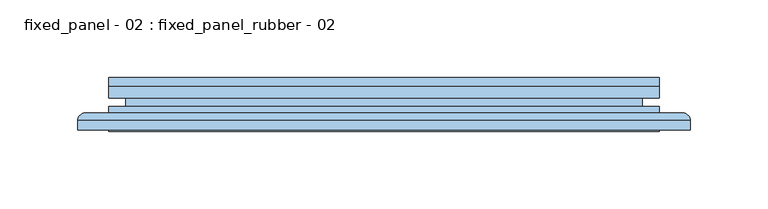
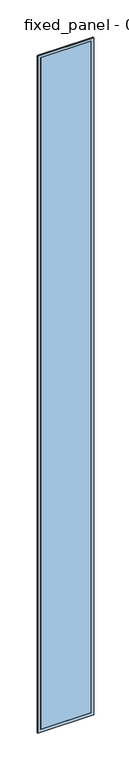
"""IFC4 building model written with IfcOpenShell, lengths in millimetres: window geometry, fixed_panel - 02 : fixed_panel_rubber - 02."""

from ifc_helpers import new_model, si_unit, frame, origin, origin_with_axes, place, context, project, spatial, polyline, ellipse_curve, outline, extrude, faceted_brep, source, transform, mapped, element, save
from ifc_brep_helpers import plane_surface, cylinder_surface, advanced_brep


def fixed_panel_02_fixed_panel_rubber_02_223eeaf6(model_context):
    return source(origin(), model_context, "Body", "SolidModel", [
        advanced_brep(
        [(177.5009348, -27.9878211, 5000.0), (182.5009348, -22.9878211, 5005.0), (182.5009348, -22.9878211, -5.0), (177.5009348, -27.9878211, 0.0), (192.4986127, -22.9878211, -14.9976779), (-192.4986127, -22.9878211, -14.9976779), (-192.4986127, -22.9878211, 5014.9976779), (192.4986127, -22.9878211, 5014.9976779), (-182.5009348, -22.9878211, 5005.0), (-182.5009348, -22.9878211, -5.0), (-177.5009348, -27.9878211, 0.0), (177.5009348, -34.0, 5000.0), (177.5009348, -34.0, 0.0), (-177.5009348, -34.0, 0.0), (197.4942883, -34.0, 5019.9933535), (-197.4942883, -34.0, 5019.9933535), (-197.4942883, -34.0, -19.9933535), (197.4942883, -34.0, -19.9933535), (-177.5009348, -34.0, 5000.0), (197.4942883, -27.9834967, 5019.9933535), (197.4942883, -27.9834967, -19.9933535), (-197.4942883, -27.9834967, -19.9933535), (-177.5009348, -27.9878211, 5000.0), (-197.4942883, -27.9834967, 5019.9933535)],
        [
            (0, 1, ellipse_curve(frame((182.5009348, -27.9878211, 5005.0), z_axis=(0.7071067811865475, 0.0, -0.7071067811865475), x_axis=(0.7071067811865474, 0.0, 0.7071067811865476)), 7.0710678, 5.0)),
            (1, 2),
            (2, 3, ellipse_curve(frame((182.5009348, -27.9878211, -5.0), z_axis=(0.7071067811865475, 0.0, 0.7071067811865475), x_axis=(-0.7071067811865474, 0.0, 0.7071067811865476)), 7.0710678, 5.0)),
            (3, 0),
            (4, 5),
            (5, 6),
            (6, 7),
            (7, 4),
            (1, 8),
            (8, 9),
            (9, 2),
            (9, 10, ellipse_curve(frame((-182.5009348, -27.9878211, -5.0), z_axis=(0.7071067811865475, 0.0, -0.7071067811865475), x_axis=(0.7071067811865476, 0.0, 0.7071067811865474)), 7.0710678, 5.0)),
            (10, 3),
            (11, 0),
            (3, 12),
            (12, 11),
            (10, 13),
            (13, 12),
            (14, 15),
            (15, 16),
            (16, 17),
            (17, 14),
            (13, 18),
            (18, 11),
            (19, 14),
            (17, 20),
            (20, 19),
            (16, 21),
            (21, 20),
            (7, 19, ellipse_curve(frame((192.4986127, -27.9834967, 5014.9976779), z_axis=(0.7071067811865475, 0.0, -0.7071067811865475), x_axis=(0.7071067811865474, 0.0, 0.7071067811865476)), 7.0649521, 4.9956756)),
            (20, 4, ellipse_curve(frame((192.4986127, -27.9834967, -14.9976779), z_axis=(0.7071067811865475, 0.0, 0.7071067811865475), x_axis=(-0.7071067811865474, 0.0, 0.7071067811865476)), 7.0649521, 4.9956756)),
            (21, 5, ellipse_curve(frame((-192.4986127, -27.9834967, -14.9976779), z_axis=(0.7071067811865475, 0.0, -0.7071067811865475), x_axis=(0.7071067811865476, 0.0, 0.7071067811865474)), 7.0649521, 4.9956756)),
            (8, 22, ellipse_curve(frame((-182.5009348, -27.9878211, 5005.0), z_axis=(-0.7071067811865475, 0.0, -0.7071067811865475), x_axis=(0.7071067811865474, 0.0, -0.7071067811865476)), 7.0710678, 5.0)),
            (22, 10),
            (22, 18),
            (15, 23),
            (23, 21),
            (23, 6, ellipse_curve(frame((-192.4986127, -27.9834967, 5014.9976779), z_axis=(-0.7071067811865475, 0.0, -0.7071067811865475), x_axis=(0.7071067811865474, 0.0, -0.7071067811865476)), 7.0649521, 4.9956756)),
            (0, 22),
            (19, 23),
        ],
        [
            cylinder_surface(frame((182.5009348, -27.9878211, 5000.0), z_axis=(0.0, 0.0, 1.0), x_axis=(1.0, 0.0, 0.0)), 5.0),
            plane_surface(frame((-192.4986127, -22.9878211, 5014.9976779), z_axis=(0.0, 1.0, 0.0), x_axis=(1.0, 0.0, 0.0))),
            cylinder_surface(frame((177.5009348, -27.9878211, -5.0), z_axis=(1.0, 0.0, 0.0), x_axis=(0.0, 0.0, -1.0)), 5.0),
            plane_surface(frame((177.5009348, -27.9878211, 5000.0), z_axis=(-1.0, 0.0, 0.0), x_axis=(0.0, 0.0, -1.0))),
            plane_surface(frame((177.5009348, -27.9878211, 0.0), z_axis=(0.0, 0.0, 1.0), x_axis=(-1.0, 0.0, 0.0))),
            plane_surface(frame((-177.5009348, -34.0, 5000.0), z_axis=(0.0, -1.0, 0.0), x_axis=(1.0, 0.0, 0.0))),
            plane_surface(frame((197.4942883, -34.0, 5019.9933535), z_axis=(1.0, 0.0, 0.0), x_axis=(0.0, 0.0, -1.0))),
            plane_surface(frame((197.4942883, -34.0, -19.9933535), z_axis=(0.0, 0.0, -1.0), x_axis=(-1.0, 0.0, 0.0))),
            cylinder_surface(frame((192.4986127, -27.9834967, 5000.0), z_axis=(0.0, 0.0, 1.0), x_axis=(1.0, 0.0, 0.0)), 4.9956756),
            cylinder_surface(frame((177.5009348, -27.9834967, -14.9976779), z_axis=(1.0, 0.0, 0.0), x_axis=(0.0, 0.0, -1.0)), 4.9956756),
            cylinder_surface(frame((-182.5009348, -27.9878211, 0.0), z_axis=(0.0, 0.0, -1.0), x_axis=(-1.0, 0.0, 0.0)), 5.0),
            plane_surface(frame((-177.5009348, -27.9878211, 0.0), z_axis=(1.0, 0.0, 0.0), x_axis=(0.0, 0.0, 1.0))),
            plane_surface(frame((-197.4942883, -34.0, -19.9933535), z_axis=(-1.0, 0.0, 0.0), x_axis=(0.0, 0.0, 1.0))),
            cylinder_surface(frame((-192.4986127, -27.9834967, 0.0), z_axis=(0.0, 0.0, -1.0), x_axis=(-1.0, 0.0, 0.0)), 4.9956756),
            cylinder_surface(frame((-177.5009348, -27.9878211, 5005.0), z_axis=(-1.0, 0.0, 0.0), x_axis=(0.0, 0.0, 1.0)), 5.0),
            plane_surface(frame((-177.5009348, -27.9878211, 5000.0), z_axis=(0.0, 0.0, -1.0), x_axis=(1.0, 0.0, 0.0))),
            plane_surface(frame((-197.4942883, -34.0, 5019.9933535), z_axis=(0.0, 0.0, 1.0), x_axis=(1.0, 0.0, 0.0))),
            cylinder_surface(frame((-177.5009348, -27.9834967, 5014.9976779), z_axis=(-1.0, 0.0, 0.0), x_axis=(0.0, 0.0, 1.0)), 4.9956756),
        ],
        [
            (0, [[1, 2, 3, 4]]),
            (1, [[5, 6, 7, 8], [9, 10, 11, -2]]),
            (2, [[-3, -11, 12, 13]]),
            (3, [[14, -4, 15, 16]]),
            (4, [[-15, -13, 17, 18]]),
            (5, [[19, 20, 21, 22], [-18, 23, 24, -16]]),
            (6, [[25, -22, 26, 27]]),
            (7, [[-26, -21, 28, 29]]),
            (8, [[30, -27, 31, -8]]),
            (9, [[-31, -29, 32, -5]]),
            (10, [[-12, -10, 33, 34]]),
            (11, [[-17, -34, 35, -23]]),
            (12, [[-28, -20, 36, 37]]),
            (13, [[-32, -37, 38, -6]]),
            (14, [[-33, -9, -1, 39]]),
            (15, [[-35, -39, -14, -24]]),
            (16, [[-36, -19, -25, 40]]),
            (17, [[-38, -40, -30, -7]]),
        ],
    ),
        faceted_brep([(151.5009348, -26.0, 4974.0), (151.5009348, -6.0, 4974.0), (151.5009348, -6.0, 26.0), (151.5009348, -26.0, 26.0), (177.5009348, -6.0, 0.0), (-177.5009348, -6.0, 0.0), (-177.5009348, -6.0, 5000.0), (177.5009348, -6.0, 5000.0), (-151.5009348, -6.0, 4974.0), (-151.5009348, -6.0, 26.0), (-151.5009348, -26.0, 26.0), (177.5009348, -26.0, 5000.0), (-177.5009348, -26.0, 5000.0), (-177.5009348, -26.0, 0.0), (177.5009348, -26.0, 0.0), (-151.5009348, -26.0, 4974.0), (177.5009348, -18.8, 5000.0), (177.5009348, -18.8, 0.0), (-177.5009348, -18.8, 0.0), (-177.5009348, -18.8, 5000.0), (166.5009348, -18.8, 4989.0), (-166.5009348, -18.8, 4989.0), (-166.5009348, -18.8, 11.0), (166.5009348, -18.8, 11.0), (166.5009348, -13.2, 4989.0), (166.5009348, -13.2, 11.0), (-166.5009348, -13.2, 11.0), (177.5009348, -13.2, 5000.0), (-177.5009348, -13.2, 5000.0), (-177.5009348, -13.2, 0.0), (177.5009348, -13.2, 0.0), (-166.5009348, -13.2, 4989.0)], [[[0, 1, 2, 3]], [[4, 5, 6, 7], [1, 8, 9, 2]], [[3, 2, 9, 10]], [[11, 12, 13, 14], [3, 10, 15, 0]], [[16, 11, 14, 17]], [[17, 14, 13, 18]], [[17, 18, 19, 16], [20, 21, 22, 23]], [[24, 20, 23, 25]], [[25, 23, 22, 26]], [[27, 28, 29, 30], [25, 26, 31, 24]], [[7, 27, 30, 4]], [[4, 30, 29, 5]], [[10, 9, 8, 15]], [[18, 13, 12, 19]], [[26, 22, 21, 31]], [[5, 29, 28, 6]], [[15, 8, 1, 0]], [[19, 12, 11, 16]], [[31, 21, 20, 24]], [[6, 28, 27, 7]]]),
        extrude(outline(polyline([(177.5009348, -34.0), (-177.5009348, -34.0), (-177.5009348, -26.0), (177.5009348, -26.0), (177.5009348, -34.0)])), origin_with_axes(), (0.0, 0.0, 1.0), 5000.0),
        extrude(outline(polyline([(177.5009348, -6.0), (-177.5009348, -6.0), (-177.5009348, 0.0), (177.5009348, 0.0), (177.5009348, -6.0)])), origin_with_axes(), (0.0, 0.0, 1.0), 5000.0),
    ])


if __name__ == "__main__":
    model = new_model("IFC4")
    model_context = context("Model", 3, world=origin())
    ifc_project = project(units=[si_unit("LENGTHUNIT", "METRE", prefix="MILLI")], contexts=[model_context])
    site = spatial("IfcSite", under=ifc_project)
    building = spatial("IfcBuilding", under=site)
    placement = place(None, origin())
    fixed_panel_02_fixed_panel_rubber_02_shape = fixed_panel_02_fixed_panel_rubber_02_223eeaf6(model_context)
    element("IfcWindow", 1, ObjectType="fixed_panel - 02 : fixed_panel_rubber - 02", at=placement, inside=building, context=model_context, shape_type="MappedRepresentation", body=[
        mapped(fixed_panel_02_fixed_panel_rubber_02_shape, transform((0.0, 0.0, 0.0), x_axis=(1.0, 0.0, 0.0), y_axis=(0.0, 1.0, 0.0), z_axis=(0.0, 0.0, 1.0))),
    ])
    save(model, "model.ifc")
